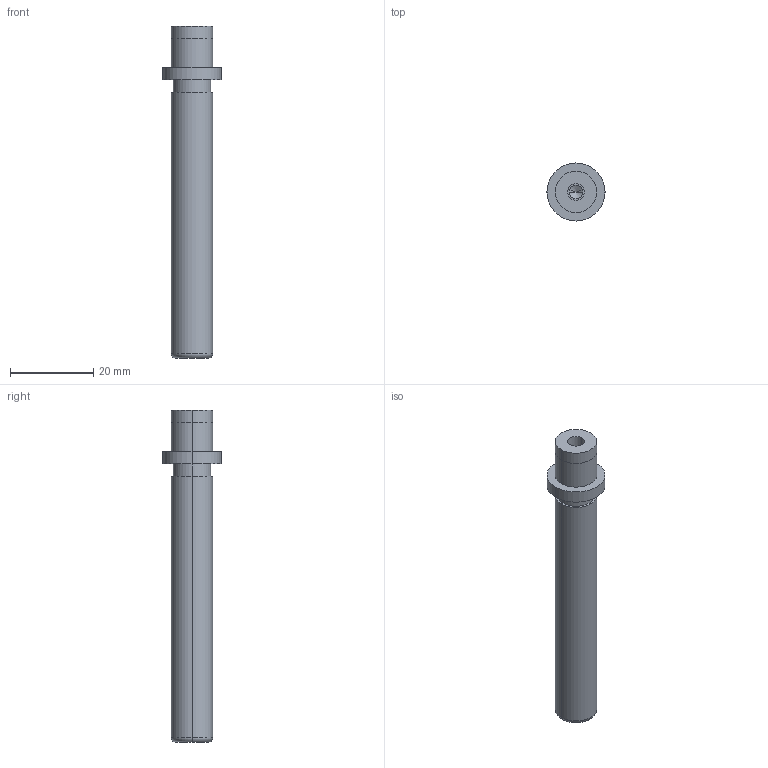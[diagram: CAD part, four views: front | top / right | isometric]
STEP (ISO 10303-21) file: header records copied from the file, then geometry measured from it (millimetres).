
FILE_DESCRIPTION(/* description */ (''),/* implementation_level */ '2;1');
FILE_NAME(/* name */ '3d_sgpw10-70_05296_r00.stp',/* time_stamp */ '2011-01-10T14:11:05+09:00',/* author */ ('MISUMI'),/* organization */ (''),/* preprocessor_version */ 'ST-DEVELOPER v11',/* originating_system */ 'UGS - NX 5.0',/* authorisation */ '');
FILE_SCHEMA (('CONFIG_CONTROL_DESIGN'));
Length unit declared in the file: millimetre
Products named in the file (1): 3d_sgpw10-70_05296_r00
Bounding box: 14 x 14 x 80 mm (x, y, z)
Volume: 6167.2 mm3; surface area: 3160.8 mm2
Topology: 1 solids, 1 shells, 31 faces, 64 edges, 38 vertices
Faces by surface type: cylinder 18, plane 7, cone 4, torus 2
Entity records: 890 total; most frequent: DIRECTION 162, CARTESIAN_POINT 130, ORIENTED_EDGE 120, AXIS2_PLACEMENT_3D 70, EDGE_CURVE 60, EDGE_LOOP 38, CIRCLE 38, VERTEX_POINT 38
